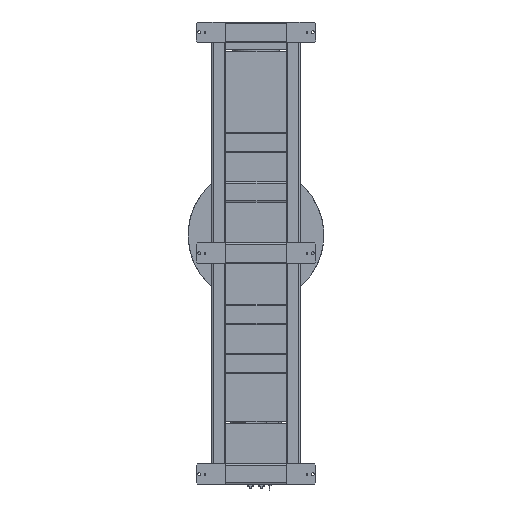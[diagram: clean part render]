
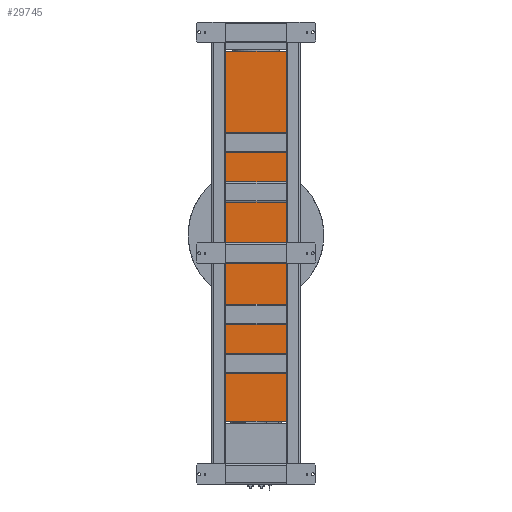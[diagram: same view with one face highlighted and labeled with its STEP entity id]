
A CAD part, front view. The second image highlights one B-rep face of the part: STEP entity #29745.
In plain terms, the highlighted planar face has unit normal (0, -1, 0).
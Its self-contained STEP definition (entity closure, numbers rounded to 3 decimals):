
#2317 = EDGE_LOOP ( 'NONE', ( #8272, #26076, #32451, #29344 ) ) ;
#2508 = FACE_OUTER_BOUND ( 'NONE', #2317, .T. ) ;
#7615 = CARTESIAN_POINT ( 'NONE',  ( 1160.747, 159.225, 4995. ) ) ;
#8272 = ORIENTED_EDGE ( 'NONE', *, *, #16233, .F. ) ;
#8928 = VERTEX_POINT ( 'NONE', #21741 ) ;
#9978 = CARTESIAN_POINT ( 'NONE',  ( 1810.747, 159.225, 4995. ) ) ;
#10255 = VECTOR ( 'NONE', #21747, 1000. ) ;
#10311 = VERTEX_POINT ( 'NONE', #7615 ) ;
#12926 = CARTESIAN_POINT ( 'NONE',  ( 1810.747, 159.225, 2275. ) ) ;
#15030 = VECTOR ( 'NONE', #17230, 1000. ) ;
#15330 = VECTOR ( 'NONE', #29881, 1000. ) ;
#15651 = AXIS2_PLACEMENT_3D ( 'NONE', #23379, #35167, #17582 ) ;
#16085 = EDGE_CURVE ( 'NONE', #10311, #35893, #37844, .T. ) ;
#16233 = EDGE_CURVE ( 'NONE', #35893, #8928, #26322, .T. ) ;
#16832 = EDGE_CURVE ( 'NONE', #8928, #31138, #19905, .T. ) ;
#17230 = DIRECTION ( 'NONE',  ( 0., 0., 1. ) ) ;
#17582 = DIRECTION ( 'NONE',  ( 1., 0., 0. ) ) ;
#17619 = VECTOR ( 'NONE', #36418, 1000. ) ;
#18392 = CARTESIAN_POINT ( 'NONE',  ( 1160.747, 159.225, 2275. ) ) ;
#19905 = LINE ( 'NONE', #30469, #10255 ) ;
#21741 = CARTESIAN_POINT ( 'NONE',  ( 1810.747, 159.225, 2275. ) ) ;
#21747 = DIRECTION ( 'NONE',  ( -1., 0., 0. ) ) ;
#23379 = CARTESIAN_POINT ( 'NONE',  ( 1485.747, 159.225, 3510. ) ) ;
#26076 = ORIENTED_EDGE ( 'NONE', *, *, #16085, .F. ) ;
#26322 = LINE ( 'NONE', #12926, #17619 ) ;
#26778 = CARTESIAN_POINT ( 'NONE',  ( 1810.747, 159.225, 4995. ) ) ;
#28808 = LINE ( 'NONE', #34814, #15030 ) ;
#29274 = PLANE ( 'NONE',  #15651 ) ;
#29344 = ORIENTED_EDGE ( 'NONE', *, *, #16832, .F. ) ;
#29745 = ADVANCED_FACE ( 'NONE', ( #2508 ), #29274, .T. ) ;
#29881 = DIRECTION ( 'NONE',  ( 1., 0., 0. ) ) ;
#30469 = CARTESIAN_POINT ( 'NONE',  ( 1810.747, 159.225, 2275. ) ) ;
#31138 = VERTEX_POINT ( 'NONE', #18392 ) ;
#32451 = ORIENTED_EDGE ( 'NONE', *, *, #33718, .F. ) ;
#33718 = EDGE_CURVE ( 'NONE', #31138, #10311, #28808, .T. ) ;
#34814 = CARTESIAN_POINT ( 'NONE',  ( 1160.747, 159.225, 2275. ) ) ;
#35167 = DIRECTION ( 'NONE',  ( 0., -1., 0. ) ) ;
#35893 = VERTEX_POINT ( 'NONE', #9978 ) ;
#36418 = DIRECTION ( 'NONE',  ( 0., 0., -1. ) ) ;
#37844 = LINE ( 'NONE', #26778, #15330 ) ;
